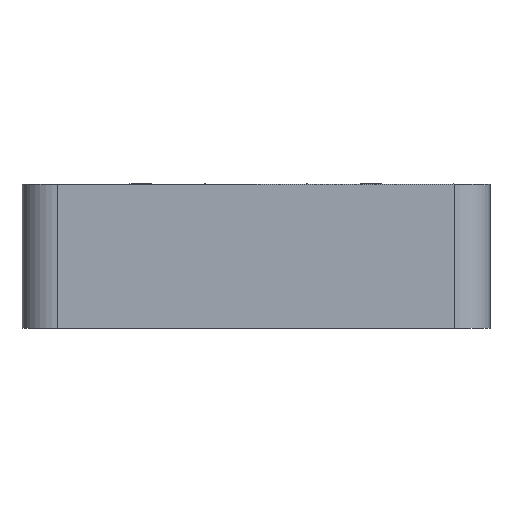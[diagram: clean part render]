
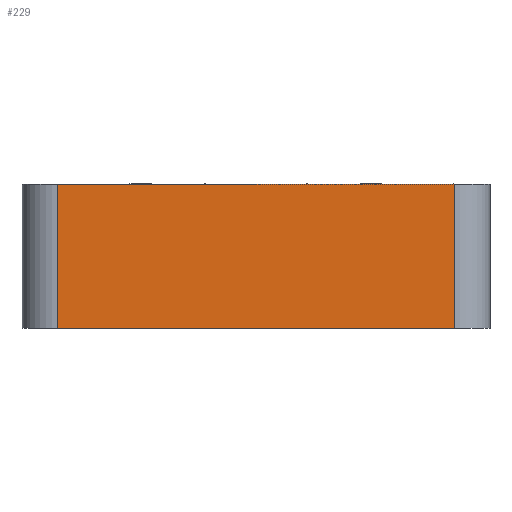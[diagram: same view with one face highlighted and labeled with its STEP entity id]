
A CAD part, left-side view. The second image highlights one B-rep face of the part: STEP entity #229.
In plain terms, the highlighted planar face has unit normal (-1, 0, 0).
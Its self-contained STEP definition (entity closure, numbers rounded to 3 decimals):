
#153 = EDGE_CURVE ( 'NONE', #2174, #154, #871, .T. ) ;
#154 = VERTEX_POINT ( 'NONE', #867 ) ;
#155 = ORIENTED_EDGE ( 'NONE', *, *, #2169, .F. ) ;
#156 = ORIENTED_EDGE ( 'NONE', *, *, #157, .F. ) ;
#157 = EDGE_CURVE ( 'NONE', #158, #2149, #866, .T. ) ;
#158 = VERTEX_POINT ( 'NONE', #862 ) ;
#159 = ORIENTED_EDGE ( 'NONE', *, *, #160, .T. ) ;
#160 = EDGE_CURVE ( 'NONE', #158, #154, #860, .T. ) ;
#229 = ADVANCED_FACE ( 'NONE', ( #1121 ), #1105, .F. ) ;
#230 = EDGE_LOOP ( 'NONE', ( #231, #155, #156, #159 ) ) ;
#231 = ORIENTED_EDGE ( 'NONE', *, *, #153, .F. ) ;
#857 = DIRECTION ( 'NONE',  ( 0., -1., 0. ) ) ;
#858 = VECTOR ( 'NONE', #857, 1000. ) ;
#859 = CARTESIAN_POINT ( 'NONE',  ( -20., 11., 0. ) ) ;
#860 = LINE ( 'NONE', #859, #858 ) ;
#862 = CARTESIAN_POINT ( 'NONE',  ( -20., 11., 0. ) ) ;
#863 = DIRECTION ( 'NONE',  ( 0., 0., 1. ) ) ;
#864 = VECTOR ( 'NONE', #863, 1000. ) ;
#865 = CARTESIAN_POINT ( 'NONE',  ( -20., 11., 8. ) ) ;
#866 = LINE ( 'NONE', #865, #864 ) ;
#867 = CARTESIAN_POINT ( 'NONE',  ( -20., -11., 0. ) ) ;
#868 = DIRECTION ( 'NONE',  ( 0., 0., -1. ) ) ;
#869 = VECTOR ( 'NONE', #868, 1000. ) ;
#870 = CARTESIAN_POINT ( 'NONE',  ( -20., -11., 8. ) ) ;
#871 = LINE ( 'NONE', #870, #869 ) ;
#1101 = DIRECTION ( 'NONE',  ( 0., 1., 0. ) ) ;
#1102 = DIRECTION ( 'NONE',  ( 1., 0., 0. ) ) ;
#1103 = CARTESIAN_POINT ( 'NONE',  ( -20., 11., 8. ) ) ;
#1104 = AXIS2_PLACEMENT_3D ( 'NONE', #1103, #1102, #1101 ) ;
#1105 = PLANE ( 'NONE',  #1104 ) ;
#1121 = FACE_OUTER_BOUND ( 'NONE', #230, .T. ) ;
#1898 = CARTESIAN_POINT ( 'NONE',  ( -20., 11., 8. ) ) ;
#1928 = CARTESIAN_POINT ( 'NONE',  ( -20., -11., 8. ) ) ;
#1934 = DIRECTION ( 'NONE',  ( 0., -1., 0. ) ) ;
#1935 = VECTOR ( 'NONE', #1934, 1000. ) ;
#1936 = CARTESIAN_POINT ( 'NONE',  ( -20., 11., 8. ) ) ;
#1937 = LINE ( 'NONE', #1936, #1935 ) ;
#2149 = VERTEX_POINT ( 'NONE', #1898 ) ;
#2169 = EDGE_CURVE ( 'NONE', #2149, #2174, #1937, .T. ) ;
#2174 = VERTEX_POINT ( 'NONE', #1928 ) ;
